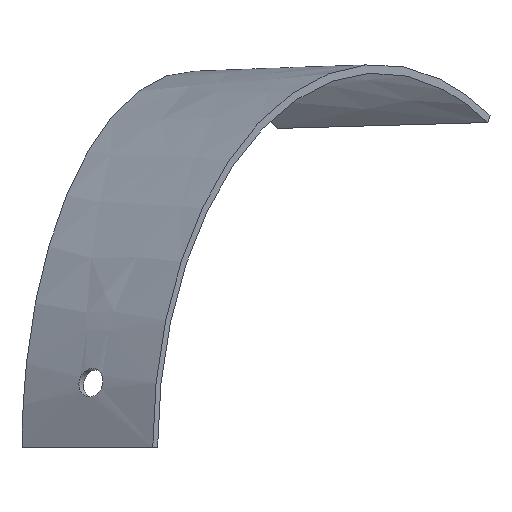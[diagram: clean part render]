
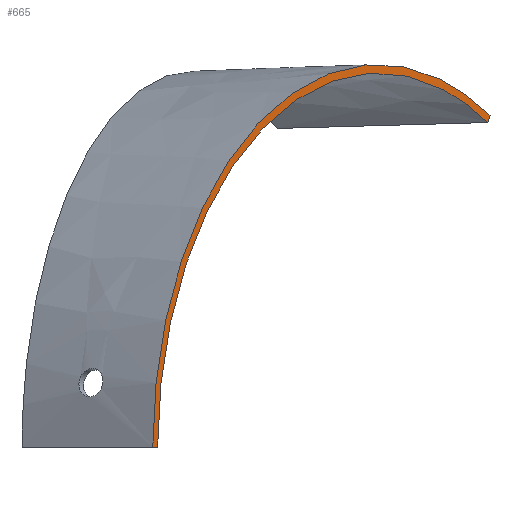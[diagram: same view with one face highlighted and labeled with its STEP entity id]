
A CAD part, left-side view. The second image highlights one B-rep face of the part: STEP entity #665.
In plain terms, the highlighted free-form (B-spline) face has degree [1, 3] with [2, 10] control points.
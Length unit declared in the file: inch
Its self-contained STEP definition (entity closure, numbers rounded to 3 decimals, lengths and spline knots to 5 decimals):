
#5 = ORIENTED_EDGE ( 'NONE', *, *, #226, .F. ) ;
#18 = CARTESIAN_POINT ( 'NONE',  ( 106.22038, -77.17362, 31.2694 ) ) ;
#23 = VERTEX_POINT ( 'NONE', #549 ) ;
#45 = EDGE_CURVE ( 'NONE', #560, #23, #645, .T. ) ;
#56 = CARTESIAN_POINT ( 'NONE',  ( 69.98302, -50.87849, 5.98634 ) ) ;
#58 = VERTEX_POINT ( 'NONE', #378 ) ;
#84 = CARTESIAN_POINT ( 'NONE',  ( 70.58693, -51.2844, 0.125 ) ) ;
#99 = VERTEX_POINT ( 'NONE', #125 ) ;
#106 = CARTESIAN_POINT ( 'NONE',  ( 79.42056, -57.7145, 26.08253 ) ) ;
#107 = B_SPLINE_CURVE_WITH_KNOTS ( 'NONE', 1,
 ( #309, #433 ),
 .UNSPECIFIED., .F., .F.,
 ( 2, 2 ),
 ( 0., 1. ),
 .UNSPECIFIED. ) ;
#112 = CARTESIAN_POINT ( 'NONE',  ( 92.29914, -67.04143, 33.48868 ) ) ;
#116 = CARTESIAN_POINT ( 'NONE',  ( 87.63896, -63.66659, 31.94117 ) ) ;
#125 = CARTESIAN_POINT ( 'NONE',  ( 70.58693, -51.2844, 0.125 ) ) ;
#155 = CARTESIAN_POINT ( 'NONE',  ( 101.66508, -73.86401, 32.76087 ) ) ;
#177 = CARTESIAN_POINT ( 'NONE',  ( 87.84721, -63.82474, 31.22606 ) ) ;
#182 = CARTESIAN_POINT ( 'NONE',  ( 110.57219, -80.27342, 29.07411 ) ) ;
#187 = CARTESIAN_POINT ( 'NONE',  ( 76.48622, -55.57049, 21.38375 ) ) ;
#226 = EDGE_CURVE ( 'NONE', #99, #560, #404, .T. ) ;
#228 = CARTESIAN_POINT ( 'NONE',  ( 70.60461, -51.29725, 5.85242 ) ) ;
#248 = CARTESIAN_POINT ( 'NONE',  ( 106.45409, -77.29152, 31.98436 ) ) ;
#252 = CARTESIAN_POINT ( 'NONE',  ( 101.78925, -73.91367, 33.51046 ) ) ;
#253 = CARTESIAN_POINT ( 'NONE',  ( 79.82156, -57.99376, 25.4986 ) ) ;
#255 = CARTESIAN_POINT ( 'NONE',  ( 69.96491, -50.86537, 0.12786 ) ) ;
#256 = CARTESIAN_POINT ( 'NONE',  ( 71.24512, -51.79277, 11.73708 ) ) ;
#278 = CARTESIAN_POINT ( 'NONE',  ( 76.48622, -55.57049, 21.38375 ) ) ;
#286 = CARTESIAN_POINT ( 'NONE',  ( 69.96491, -50.86537, 0.12786 ) ) ;
#297 = CARTESIAN_POINT ( 'NONE',  ( 70.58693, -51.2844, 0.125 ) ) ;
#309 = CARTESIAN_POINT ( 'NONE',  ( 110.24202, -80.09551, 28.42463 ) ) ;
#331 = CARTESIAN_POINT ( 'NONE',  ( 92.39787, -67.13098, 32.73901 ) ) ;
#335 = B_SPLINE_SURFACE_WITH_KNOTS ( 'NONE', 1, 3, ( 
 ( #182, #248, #567, #112, #849, #106, #656, #256, #641, #506 ),
 ( #771, #500, #360, #859, #177, #253, #187, #434, #562, #297 ) ),
 .UNSPECIFIED., .F., .F., .F.,
 ( 2, 2 ),
 ( 4, 2, 2, 2, 4 ),
 ( 0., 1. ),
 ( 0., 0.25, 0.5, 0.75, 1. ),
 .UNSPECIFIED. ) ;
#341 = EDGE_CURVE ( 'NONE', #58, #23, #107, .T. ) ;
#342 = CARTESIAN_POINT ( 'NONE',  ( 71.83729, -52.19285, 11.47444 ) ) ;
#353 = ORIENTED_EDGE ( 'NONE', *, *, #459, .T. ) ;
#360 = CARTESIAN_POINT ( 'NONE',  ( 101.66508, -73.86401, 32.76087 ) ) ;
#378 = CARTESIAN_POINT ( 'NONE',  ( 110.24202, -80.09551, 28.42463 ) ) ;
#394 = ORIENTED_EDGE ( 'NONE', *, *, #45, .F. ) ;
#404 = B_SPLINE_CURVE_WITH_KNOTS ( 'NONE', 1,
 ( #655, #494 ),
 .UNSPECIFIED., .F., .F.,
 ( 2, 2 ),
 ( 0., 1. ),
 .UNSPECIFIED. ) ;
#433 = CARTESIAN_POINT ( 'NONE',  ( 110.57219, -80.27342, 29.07411 ) ) ;
#434 = CARTESIAN_POINT ( 'NONE',  ( 71.83729, -52.19285, 11.47444 ) ) ;
#438 = CARTESIAN_POINT ( 'NONE',  ( 79.42056, -57.7145, 26.08253 ) ) ;
#443 = FACE_OUTER_BOUND ( 'NONE', #447, .T. ) ;
#447 = EDGE_LOOP ( 'NONE', ( #5, #353, #816, #394 ) ) ;
#459 = EDGE_CURVE ( 'NONE', #99, #58, #588, .T. ) ;
#470 = CARTESIAN_POINT ( 'NONE',  ( 87.84721, -63.82474, 31.22606 ) ) ;
#483 = CARTESIAN_POINT ( 'NONE',  ( 110.24202, -80.09551, 28.42463 ) ) ;
#494 = CARTESIAN_POINT ( 'NONE',  ( 69.96491, -50.86537, 0.12786 ) ) ;
#500 = CARTESIAN_POINT ( 'NONE',  ( 106.22038, -77.17362, 31.2694 ) ) ;
#506 = CARTESIAN_POINT ( 'NONE',  ( 69.96491, -50.86537, 0.12786 ) ) ;
#512 = CARTESIAN_POINT ( 'NONE',  ( 106.4541, -77.29153, 31.98436 ) ) ;
#517 = CARTESIAN_POINT ( 'NONE',  ( 92.29914, -67.04143, 33.48868 ) ) ;
#549 = CARTESIAN_POINT ( 'NONE',  ( 110.57219, -80.27342, 29.07411 ) ) ;
#560 = VERTEX_POINT ( 'NONE', #286 ) ;
#562 = CARTESIAN_POINT ( 'NONE',  ( 70.60461, -51.29725, 5.85242 ) ) ;
#567 = CARTESIAN_POINT ( 'NONE',  ( 101.78925, -73.91367, 33.51046 ) ) ;
#588 = B_SPLINE_CURVE_WITH_KNOTS ( 'NONE', 3,
 ( #84, #228, #342, #278, #614, #470, #331, #155, #18, #483 ),
 .UNSPECIFIED., .F., .F.,
 ( 4, 2, 2, 2, 4 ),
 ( 0., 0.25, 0.5, 0.75, 1. ),
 .UNSPECIFIED. ) ;
#614 = CARTESIAN_POINT ( 'NONE',  ( 79.82156, -57.99376, 25.4986 ) ) ;
#640 = CARTESIAN_POINT ( 'NONE',  ( 110.57219, -80.27342, 29.07411 ) ) ;
#641 = CARTESIAN_POINT ( 'NONE',  ( 69.98302, -50.87849, 5.98635 ) ) ;
#645 = B_SPLINE_CURVE_WITH_KNOTS ( 'NONE', 3,
 ( #255, #56, #725, #651, #438, #116, #517, #252, #512, #640 ),
 .UNSPECIFIED., .F., .F.,
 ( 4, 2, 2, 2, 4 ),
 ( 0., 0.25, 0.5, 0.75, 1. ),
 .UNSPECIFIED. ) ;
#651 = CARTESIAN_POINT ( 'NONE',  ( 76.00526, -55.24077, 21.87332 ) ) ;
#655 = CARTESIAN_POINT ( 'NONE',  ( 70.58693, -51.2844, 0.125 ) ) ;
#656 = CARTESIAN_POINT ( 'NONE',  ( 76.00526, -55.24077, 21.87332 ) ) ;
#665 = ADVANCED_FACE ( 'NONE', ( #443 ), #335, .F. ) ;
#725 = CARTESIAN_POINT ( 'NONE',  ( 71.24512, -51.79277, 11.73708 ) ) ;
#771 = CARTESIAN_POINT ( 'NONE',  ( 110.24202, -80.09551, 28.42463 ) ) ;
#816 = ORIENTED_EDGE ( 'NONE', *, *, #341, .T. ) ;
#849 = CARTESIAN_POINT ( 'NONE',  ( 87.63896, -63.66659, 31.94117 ) ) ;
#859 = CARTESIAN_POINT ( 'NONE',  ( 92.39787, -67.13098, 32.73901 ) ) ;
